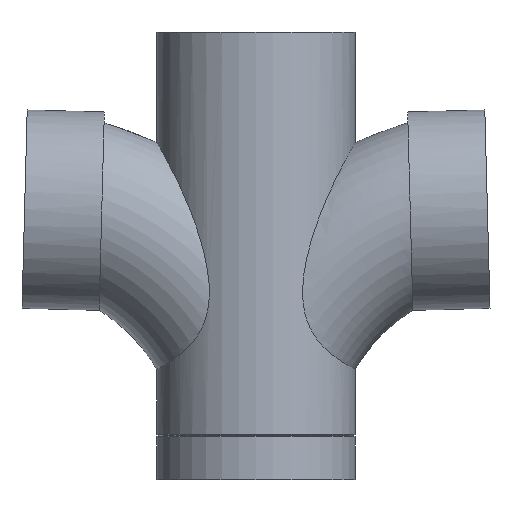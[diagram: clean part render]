
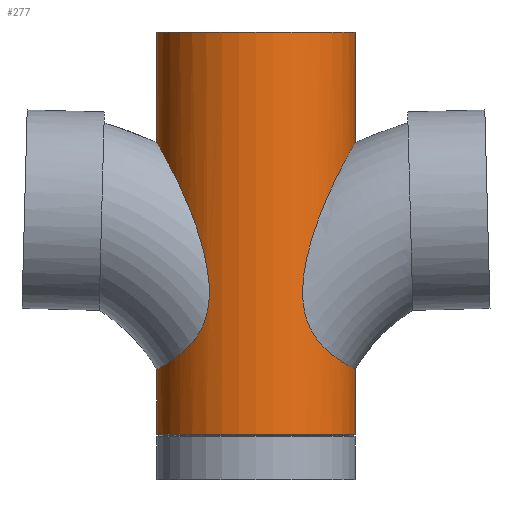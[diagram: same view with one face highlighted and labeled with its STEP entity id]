
A CAD part, top view. The second image highlights one B-rep face of the part: STEP entity #277.
In plain terms, the highlighted cylindrical face has radius 45 mm (diameter 90 mm), a full revolution.
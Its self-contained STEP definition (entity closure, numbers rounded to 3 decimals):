
#25=B_SPLINE_CURVE_WITH_KNOTS($,3,(#424,#425,#426,#427,#428,#429,#430,#431,
#432,#433,#434,#435,#436,#437,#438,#439,#440,#441,#442,#443,#444,#445,#446,
#447,#448,#449,#450,#451,#452,#453,#454,#455,#456,#457,#458,#459,#460,#461,
#462,#463,#464,#465,#466,#467),.UNSPECIFIED.,.T.,.F.,(4,2,2,2,2,2,2,2,2,
2,2,2,2,2,2,2,2,2,2,2,2,4),(-28.645,-27.894,-26.703,
-25.065,-22.427,-20.772,-19.785,
-18.958,-17.963,-16.723,-15.455,
-14.17,-12.888,-11.575,-10.597,
-9.545,-8.264,-5.542,-3.416,
-2.05,-0.85,0.),.UNSPECIFIED.);
#26=B_SPLINE_CURVE_WITH_KNOTS($,3,(#471,#472,#473,#474,#475,#476,#477,#478,
#479,#480,#481,#482,#483,#484,#485,#486,#487,#488,#489,#490,#491,#492,#493,
#494,#495,#496,#497,#498,#499,#500,#501,#502,#503,#504,#505,#506,#507,#508,
#509,#510,#511,#512,#513,#514),.UNSPECIFIED.,.T.,.F.,(4,2,2,2,2,2,2,2,2,
2,2,2,2,2,2,2,2,2,2,2,2,4),(0.,0.85,2.05,3.416,
5.542,8.264,9.545,10.597,11.575,
12.888,14.17,15.455,16.723,17.963,
18.958,19.785,20.772,22.427,25.065,
26.703,27.894,28.645),.UNSPECIFIED.);
#35=CYLINDRICAL_SURFACE($,#305,45.);
#44=FACE_BOUND($,#93,.T.);
#45=FACE_BOUND($,#94,.T.);
#46=FACE_BOUND($,#95,.T.);
#47=FACE_BOUND($,#96,.T.);
#93=EDGE_LOOP($,(#204));
#94=EDGE_LOOP($,(#205));
#95=EDGE_LOOP($,(#206));
#96=EDGE_LOOP($,(#207));
#138=CIRCLE($,#304,45.);
#139=CIRCLE($,#306,45.);
#153=VERTEX_POINT($,#420);
#154=VERTEX_POINT($,#423);
#155=VERTEX_POINT($,#468);
#156=VERTEX_POINT($,#470);
#177=EDGE_CURVE($,#153,#153,#138,.T.);
#178=EDGE_CURVE($,#154,#154,#25,.T.);
#179=EDGE_CURVE($,#155,#155,#139,.T.);
#180=EDGE_CURVE($,#156,#156,#26,.T.);
#204=ORIENTED_EDGE($,*,*,#178,.F.);
#205=ORIENTED_EDGE($,*,*,#179,.T.);
#206=ORIENTED_EDGE($,*,*,#180,.T.);
#207=ORIENTED_EDGE($,*,*,#177,.T.);
#277=ADVANCED_FACE($,(#44,#45,#46,#47),#35,.T.);
#304=AXIS2_PLACEMENT_3D($,#421,#347,#348);
#305=AXIS2_PLACEMENT_3D($,#422,#349,#350);
#306=AXIS2_PLACEMENT_3D($,#469,#351,#352);
#347=DIRECTION('center_axis',(0.,1.,0.));
#348=DIRECTION('ref_axis',(1.,0.,0.));
#349=DIRECTION('center_axis',(0.,1.,0.));
#350=DIRECTION('ref_axis',(1.,0.,0.));
#351=DIRECTION('center_axis',(0.,-1.,0.));
#352=DIRECTION('ref_axis',(1.,0.,0.));
#420=CARTESIAN_POINT('',(-45.,20.52,0.));
#421=CARTESIAN_POINT('Origin',(0.,20.52,0.));
#422=CARTESIAN_POINT('Origin',(0.,0.,0.));
#423=CARTESIAN_POINT('',(-45.,152.88,0.));
#424=CARTESIAN_POINT('Ctrl Pts',(-45.,152.88,0.));
#425=CARTESIAN_POINT('Ctrl Pts',(-45.,152.88,-2.503));
#426=CARTESIAN_POINT('Ctrl Pts',(-44.791,152.521,-4.96));
#427=CARTESIAN_POINT('Ctrl Pts',(-43.775,150.752,-11.106));
#428=CARTESIAN_POINT('Ctrl Pts',(-42.727,148.913,-14.478));
#429=CARTESIAN_POINT('Ctrl Pts',(-39.78,143.519,-21.494));
#430=CARTESIAN_POINT('Ctrl Pts',(-37.563,139.336,-25.086));
#431=CARTESIAN_POINT('Ctrl Pts',(-31.183,125.936,-33.049));
#432=CARTESIAN_POINT('Ctrl Pts',(-27.096,116.031,-36.073));
#433=CARTESIAN_POINT('Ctrl Pts',(-22.681,99.879,-38.919));
#434=CARTESIAN_POINT('Ctrl Pts',(-21.382,93.149,-39.596));
#435=CARTESIAN_POINT('Ctrl Pts',(-21.08,82.881,-39.758));
#436=CARTESIAN_POINT('Ctrl Pts',(-21.361,79.015,-39.619));
#437=CARTESIAN_POINT('Ctrl Pts',(-22.947,72.295,-38.719));
#438=CARTESIAN_POINT('Ctrl Pts',(-24.05,69.484,-38.076));
#439=CARTESIAN_POINT('Ctrl Pts',(-27.278,63.832,-35.854));
#440=CARTESIAN_POINT('Ctrl Pts',(-29.416,61.341,-34.192));
#441=CARTESIAN_POINT('Ctrl Pts',(-34.314,56.683,-29.362));
#442=CARTESIAN_POINT('Ctrl Pts',(-37.126,54.715,-25.889));
#443=CARTESIAN_POINT('Ctrl Pts',(-41.845,51.707,-17.28));
#444=CARTESIAN_POINT('Ctrl Pts',(-43.548,50.792,-12.441));
#445=CARTESIAN_POINT('Ctrl Pts',(-45.241,49.872,-2.276));
#446=CARTESIAN_POINT('Ctrl Pts',(-45.194,49.896,2.942));
#447=CARTESIAN_POINT('Ctrl Pts',(-43.386,50.881,12.984));
#448=CARTESIAN_POINT('Ctrl Pts',(-41.649,51.824,17.703));
#449=CARTESIAN_POINT('Ctrl Pts',(-36.925,54.852,26.186));
#450=CARTESIAN_POINT('Ctrl Pts',(-34.096,56.86,29.604));
#451=CARTESIAN_POINT('Ctrl Pts',(-29.424,61.357,34.161));
#452=CARTESIAN_POINT('Ctrl Pts',(-27.5,63.61,35.674));
#453=CARTESIAN_POINT('Ctrl Pts',(-24.139,69.185,38.038));
#454=CARTESIAN_POINT('Ctrl Pts',(-22.89,72.355,38.753));
#455=CARTESIAN_POINT('Ctrl Pts',(-21.193,79.975,39.711));
#456=CARTESIAN_POINT('Ctrl Pts',(-21.019,84.36,39.791));
#457=CARTESIAN_POINT('Ctrl Pts',(-21.83,97.6,39.355));
#458=CARTESIAN_POINT('Ctrl Pts',(-24.421,107.362,38.01));
#459=CARTESIAN_POINT('Ctrl Pts',(-30.076,123.187,33.62));
#460=CARTESIAN_POINT('Ctrl Pts',(-33.019,129.886,30.928));
#461=CARTESIAN_POINT('Ctrl Pts',(-37.654,139.443,24.823));
#462=CARTESIAN_POINT('Ctrl Pts',(-39.463,142.91,21.948));
#463=CARTESIAN_POINT('Ctrl Pts',(-42.36,148.259,15.538));
#464=CARTESIAN_POINT('Ctrl Pts',(-43.511,150.288,12.115));
#465=CARTESIAN_POINT('Ctrl Pts',(-44.731,152.419,5.625));
#466=CARTESIAN_POINT('Ctrl Pts',(-45.,152.88,2.835));
#467=CARTESIAN_POINT('Ctrl Pts',(-45.,152.88,0.));
#468=CARTESIAN_POINT('',(-45.,203.,0.));
#469=CARTESIAN_POINT('Origin',(0.,203.,0.));
#470=CARTESIAN_POINT('',(45.,152.88,0.));
#471=CARTESIAN_POINT('Ctrl Pts',(45.,152.88,0.));
#472=CARTESIAN_POINT('Ctrl Pts',(45.,152.88,-2.835));
#473=CARTESIAN_POINT('Ctrl Pts',(44.731,152.419,-5.625));
#474=CARTESIAN_POINT('Ctrl Pts',(43.511,150.288,-12.115));
#475=CARTESIAN_POINT('Ctrl Pts',(42.36,148.259,-15.538));
#476=CARTESIAN_POINT('Ctrl Pts',(39.463,142.91,-21.948));
#477=CARTESIAN_POINT('Ctrl Pts',(37.654,139.443,-24.823));
#478=CARTESIAN_POINT('Ctrl Pts',(33.019,129.886,-30.928));
#479=CARTESIAN_POINT('Ctrl Pts',(30.076,123.187,-33.62));
#480=CARTESIAN_POINT('Ctrl Pts',(24.421,107.362,-38.01));
#481=CARTESIAN_POINT('Ctrl Pts',(21.83,97.6,-39.355));
#482=CARTESIAN_POINT('Ctrl Pts',(21.019,84.36,-39.791));
#483=CARTESIAN_POINT('Ctrl Pts',(21.193,79.975,-39.711));
#484=CARTESIAN_POINT('Ctrl Pts',(22.89,72.355,-38.753));
#485=CARTESIAN_POINT('Ctrl Pts',(24.139,69.185,-38.038));
#486=CARTESIAN_POINT('Ctrl Pts',(27.5,63.61,-35.674));
#487=CARTESIAN_POINT('Ctrl Pts',(29.424,61.357,-34.161));
#488=CARTESIAN_POINT('Ctrl Pts',(34.096,56.86,-29.604));
#489=CARTESIAN_POINT('Ctrl Pts',(36.925,54.852,-26.186));
#490=CARTESIAN_POINT('Ctrl Pts',(41.649,51.824,-17.703));
#491=CARTESIAN_POINT('Ctrl Pts',(43.386,50.881,-12.984));
#492=CARTESIAN_POINT('Ctrl Pts',(45.194,49.896,-2.942));
#493=CARTESIAN_POINT('Ctrl Pts',(45.241,49.872,2.276));
#494=CARTESIAN_POINT('Ctrl Pts',(43.548,50.792,12.441));
#495=CARTESIAN_POINT('Ctrl Pts',(41.845,51.707,17.28));
#496=CARTESIAN_POINT('Ctrl Pts',(37.126,54.715,25.889));
#497=CARTESIAN_POINT('Ctrl Pts',(34.314,56.683,29.362));
#498=CARTESIAN_POINT('Ctrl Pts',(29.416,61.341,34.192));
#499=CARTESIAN_POINT('Ctrl Pts',(27.278,63.832,35.854));
#500=CARTESIAN_POINT('Ctrl Pts',(24.05,69.484,38.076));
#501=CARTESIAN_POINT('Ctrl Pts',(22.947,72.295,38.719));
#502=CARTESIAN_POINT('Ctrl Pts',(21.361,79.015,39.619));
#503=CARTESIAN_POINT('Ctrl Pts',(21.08,82.881,39.758));
#504=CARTESIAN_POINT('Ctrl Pts',(21.382,93.149,39.596));
#505=CARTESIAN_POINT('Ctrl Pts',(22.681,99.879,38.919));
#506=CARTESIAN_POINT('Ctrl Pts',(27.096,116.031,36.073));
#507=CARTESIAN_POINT('Ctrl Pts',(31.183,125.936,33.049));
#508=CARTESIAN_POINT('Ctrl Pts',(37.563,139.336,25.086));
#509=CARTESIAN_POINT('Ctrl Pts',(39.78,143.519,21.494));
#510=CARTESIAN_POINT('Ctrl Pts',(42.727,148.913,14.478));
#511=CARTESIAN_POINT('Ctrl Pts',(43.775,150.752,11.106));
#512=CARTESIAN_POINT('Ctrl Pts',(44.791,152.521,4.96));
#513=CARTESIAN_POINT('Ctrl Pts',(45.,152.88,2.503));
#514=CARTESIAN_POINT('Ctrl Pts',(45.,152.88,0.));
